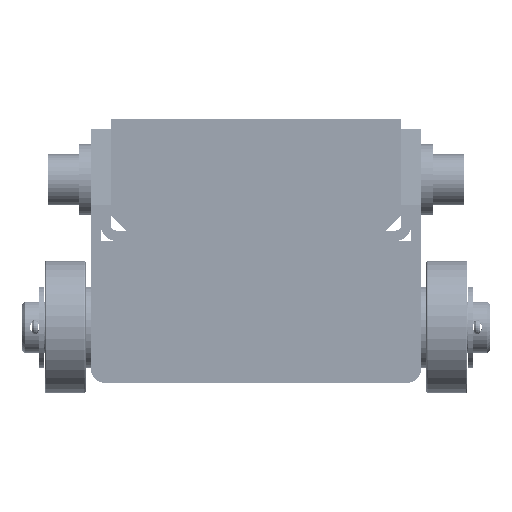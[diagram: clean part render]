
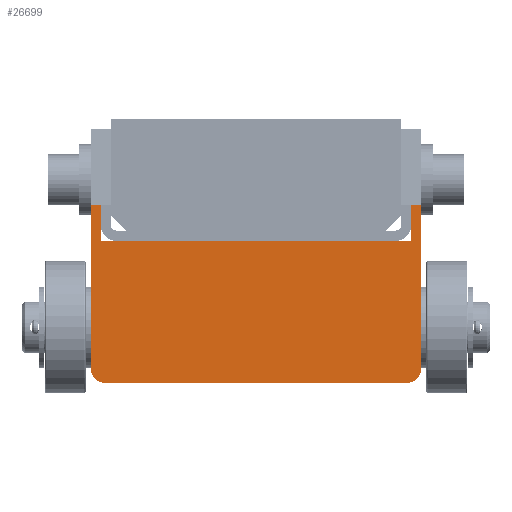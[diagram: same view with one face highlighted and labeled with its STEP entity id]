
A CAD part, front view. The second image highlights one B-rep face of the part: STEP entity #26699.
In plain terms, the highlighted planar face has unit normal (0, -1, 0).
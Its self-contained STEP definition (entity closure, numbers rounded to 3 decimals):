
#5123=FACE_OUTER_BOUND('',#6773,.T.);
#6773=EDGE_LOOP('',(#19624,#19625,#19626,#19627,#19628,#19629,#19630,#19631,
#19632,#19633));
#8593=LINE('',#41338,#10127);
#8597=LINE('',#41347,#10131);
#8602=LINE('',#41356,#10136);
#8607=LINE('',#41365,#10141);
#8621=LINE('',#41396,#10155);
#8629=LINE('',#41419,#10163);
#8630=LINE('',#41421,#10164);
#8634=LINE('',#41432,#10168);
#10127=VECTOR('',#32831,10.);
#10131=VECTOR('',#32837,10.);
#10136=VECTOR('',#32844,10.);
#10141=VECTOR('',#32855,10.);
#10155=VECTOR('',#32879,10.);
#10163=VECTOR('',#32903,10.);
#10164=VECTOR('',#32906,10.);
#10168=VECTOR('',#32920,10.);
#11704=CIRCLE('',#28811,3.);
#11705=CIRCLE('',#28814,3.);
#13002=VERTEX_POINT('',#41334);
#13004=VERTEX_POINT('',#41337);
#13006=VERTEX_POINT('',#41343);
#13008=VERTEX_POINT('',#41346);
#13011=VERTEX_POINT('',#41354);
#13012=VERTEX_POINT('',#41364);
#13024=VERTEX_POINT('',#41394);
#13031=VERTEX_POINT('',#41417);
#13032=VERTEX_POINT('',#41427);
#13033=VERTEX_POINT('',#41431);
#15515=EDGE_CURVE('',#13004,#13002,#8593,.T.);
#15519=EDGE_CURVE('',#13008,#13006,#8597,.T.);
#15524=EDGE_CURVE('',#13011,#13006,#8602,.T.);
#15529=EDGE_CURVE('',#13012,#13004,#8607,.T.);
#15545=EDGE_CURVE('',#13002,#13024,#8621,.T.);
#15557=EDGE_CURVE('',#13024,#13031,#8629,.T.);
#15558=EDGE_CURVE('',#13008,#13031,#8630,.T.);
#15561=EDGE_CURVE('',#13032,#13011,#11704,.T.);
#15563=EDGE_CURVE('',#13032,#13033,#8634,.T.);
#15565=EDGE_CURVE('',#13012,#13033,#11705,.T.);
#19624=ORIENTED_EDGE('',*,*,#15519,.T.);
#19625=ORIENTED_EDGE('',*,*,#15524,.F.);
#19626=ORIENTED_EDGE('',*,*,#15561,.F.);
#19627=ORIENTED_EDGE('',*,*,#15563,.T.);
#19628=ORIENTED_EDGE('',*,*,#15565,.F.);
#19629=ORIENTED_EDGE('',*,*,#15529,.T.);
#19630=ORIENTED_EDGE('',*,*,#15515,.T.);
#19631=ORIENTED_EDGE('',*,*,#15545,.T.);
#19632=ORIENTED_EDGE('',*,*,#15557,.T.);
#19633=ORIENTED_EDGE('',*,*,#15558,.F.);
#25869=PLANE('',#28815);
#26699=ADVANCED_FACE('',(#5123),#25869,.F.);
#28811=AXIS2_PLACEMENT_3D('',#41428,#32915,#32916);
#28814=AXIS2_PLACEMENT_3D('',#41435,#32924,#32925);
#28815=AXIS2_PLACEMENT_3D('',#41436,#32926,#32927);
#32831=DIRECTION('',(-1.,0.,0.));
#32837=DIRECTION('',(-1.,0.,0.));
#32844=DIRECTION('',(0.,0.,1.));
#32855=DIRECTION('',(0.,0.,1.));
#32879=DIRECTION('',(0.,0.,-1.));
#32903=DIRECTION('',(-1.,0.,0.));
#32906=DIRECTION('',(0.,0.,-1.));
#32915=DIRECTION('center_axis',(0.,1.,0.));
#32916=DIRECTION('ref_axis',(0.,0.,-1.));
#32920=DIRECTION('',(1.,0.,0.));
#32924=DIRECTION('center_axis',(0.,1.,0.));
#32925=DIRECTION('ref_axis',(1.,0.,0.));
#32926=DIRECTION('center_axis',(0.,1.,0.));
#32927=DIRECTION('ref_axis',(1.,0.,0.));
#41334=CARTESIAN_POINT('',(30.5,0.,35.));
#41337=CARTESIAN_POINT('',(32.5,0.,35.));
#41338=CARTESIAN_POINT('',(16.25,0.,35.));
#41343=CARTESIAN_POINT('',(-32.5,0.,35.));
#41346=CARTESIAN_POINT('',(-30.5,0.,35.));
#41347=CARTESIAN_POINT('',(16.25,0.,35.));
#41354=CARTESIAN_POINT('',(-32.5,0.,3.));
#41356=CARTESIAN_POINT('',(-32.5,0.,3.));
#41364=CARTESIAN_POINT('',(32.5,0.,3.));
#41365=CARTESIAN_POINT('',(32.5,0.,3.));
#41394=CARTESIAN_POINT('',(30.5,0.,28.));
#41396=CARTESIAN_POINT('',(30.5,0.,50.));
#41417=CARTESIAN_POINT('',(-30.5,0.,28.));
#41419=CARTESIAN_POINT('',(30.5,0.,28.));
#41421=CARTESIAN_POINT('',(-30.5,0.,50.));
#41427=CARTESIAN_POINT('',(-29.5,0.,0.));
#41428=CARTESIAN_POINT('Origin',(-29.5,0.,3.));
#41431=CARTESIAN_POINT('',(29.5,0.,0.));
#41432=CARTESIAN_POINT('',(0.,0.,0.));
#41435=CARTESIAN_POINT('Origin',(29.5,0.,3.));
#41436=CARTESIAN_POINT('Origin',(0.,0.,25.));
